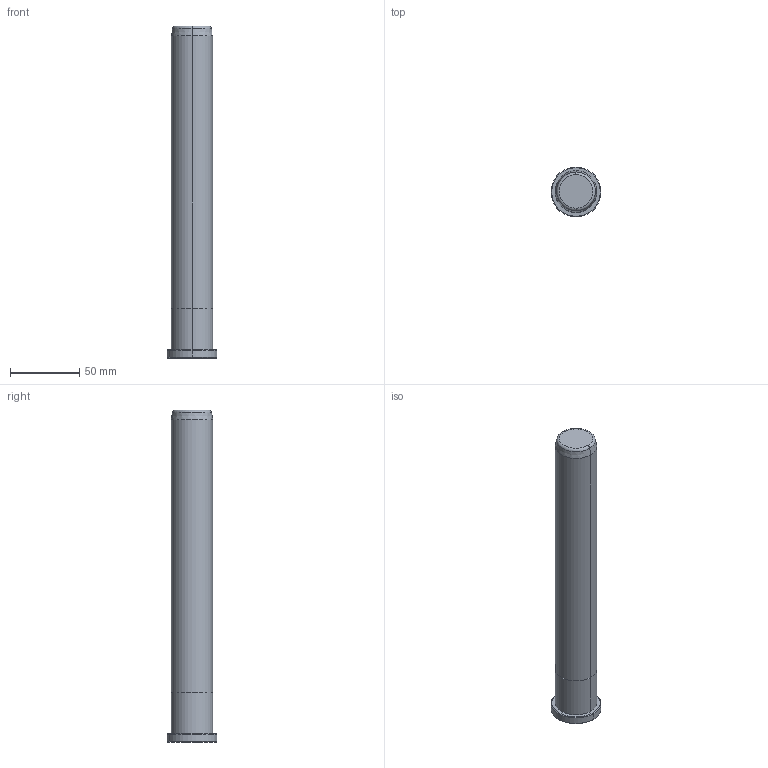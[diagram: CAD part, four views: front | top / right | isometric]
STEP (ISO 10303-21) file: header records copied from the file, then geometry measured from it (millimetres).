
FILE_DESCRIPTION((''),'2;1');
FILE_NAME('B82830240','2018-01-22T',('MANU'),(''),'PRO/ENGINEER BY PARAMETRIC TECHNOLOGY CORPORATION, 2012130','PRO/ENGINEER BY PARAMETRIC TECHNOLOGY CORPORATION, 2012130','');
FILE_SCHEMA(('CONFIG_CONTROL_DESIGN'));
Length unit declared in the file: millimetre
Products named in the file (1): B82830240
Bounding box: 36 x 36 x 240 mm (x, y, z)
Volume: 171068.7 mm3; surface area: 24524.2 mm2
Topology: 1 solids, 1 shells, 18 faces, 34 edges, 20 vertices
Faces by surface type: cone 6, cylinder 6, plane 4, torus 2
Entity records: 494 total; most frequent: DIRECTION 92, CARTESIAN_POINT 72, ORIENTED_EDGE 68, AXIS2_PLACEMENT_3D 40, EDGE_CURVE 34, CIRCLE 22, VERTEX_POINT 20, EDGE_LOOP 20
